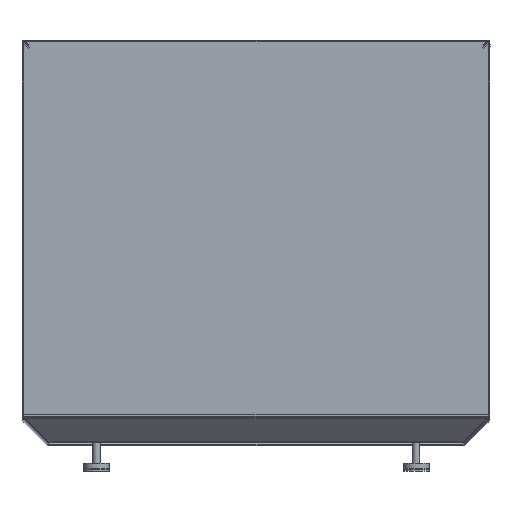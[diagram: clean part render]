
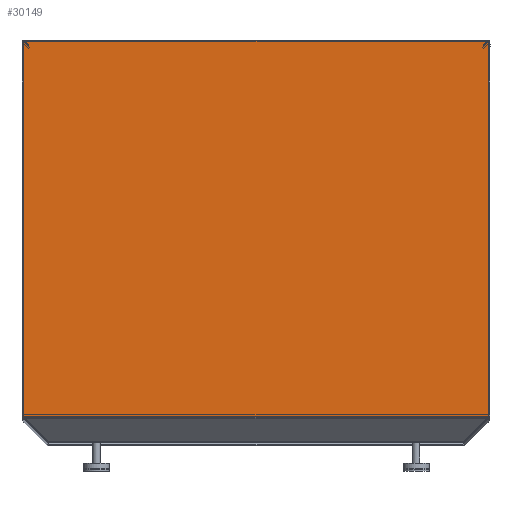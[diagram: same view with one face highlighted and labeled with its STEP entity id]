
A CAD part, top view. The second image highlights one B-rep face of the part: STEP entity #30149.
In plain terms, the highlighted planar face has unit normal (0, 0, 1).
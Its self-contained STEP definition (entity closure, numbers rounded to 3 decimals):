
#199=PLANE('',#32239);
#1762=FACE_OUTER_BOUND('',#3780,.T.);
#3780=EDGE_LOOP('',(#19784,#19785,#19786,#19787));
#5831=LINE('',#44836,#9060);
#5832=LINE('',#44839,#9061);
#5835=LINE('',#44845,#9064);
#5836=LINE('',#44846,#9065);
#9060=VECTOR('',#35341,10.);
#9061=VECTOR('',#35344,10.);
#9064=VECTOR('',#35349,10.);
#9065=VECTOR('',#35350,10.);
#13118=VERTEX_POINT('',#44759);
#13124=VERTEX_POINT('',#44795);
#13132=VERTEX_POINT('',#44838);
#13134=VERTEX_POINT('',#44844);
#15458=EDGE_CURVE('',#13124,#13118,#5831,.T.);
#15459=EDGE_CURVE('',#13124,#13132,#5832,.T.);
#15462=EDGE_CURVE('',#13134,#13118,#5835,.T.);
#15463=EDGE_CURVE('',#13132,#13134,#5836,.T.);
#19784=ORIENTED_EDGE('',*,*,#15458,.T.);
#19785=ORIENTED_EDGE('',*,*,#15462,.F.);
#19786=ORIENTED_EDGE('',*,*,#15463,.F.);
#19787=ORIENTED_EDGE('',*,*,#15459,.F.);
#30149=ADVANCED_FACE('',(#1762),#199,.T.);
#32239=AXIS2_PLACEMENT_3D('',#44843,#35347,#35348);
#35341=DIRECTION('',(1.,0.,0.));
#35344=DIRECTION('',(0.,1.,0.));
#35347=DIRECTION('center_axis',(0.,0.,
1.));
#35348=DIRECTION('ref_axis',(1.,0.,0.));
#35349=DIRECTION('',(0.,-1.,0.));
#35350=DIRECTION('',(1.,0.,0.));
#44759=CARTESIAN_POINT('',(248.5,-1.5,900.));
#44795=CARTESIAN_POINT('',(-248.5,-1.5,900.));
#44836=CARTESIAN_POINT('',(0.,-1.5,900.));
#44838=CARTESIAN_POINT('',(-248.5,400.368,900.));
#44839=CARTESIAN_POINT('',(-248.5,-1.5,900.));
#44843=CARTESIAN_POINT('Origin',(0.,179.96,
900.));
#44844=CARTESIAN_POINT('',(248.5,400.368,900.));
#44845=CARTESIAN_POINT('',(248.5,-40.448,900.));
#44846=CARTESIAN_POINT('',(-248.5,400.368,900.));
